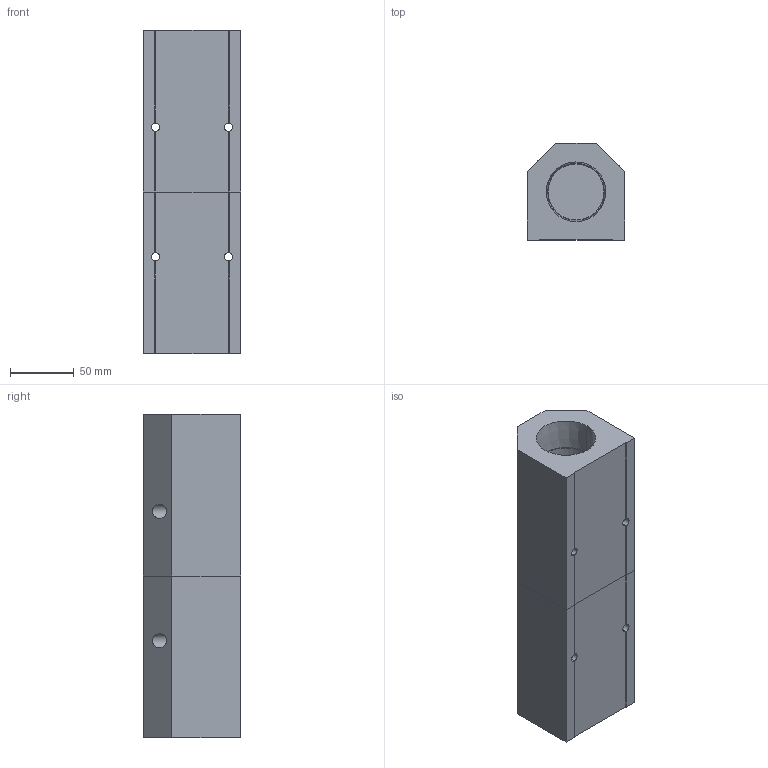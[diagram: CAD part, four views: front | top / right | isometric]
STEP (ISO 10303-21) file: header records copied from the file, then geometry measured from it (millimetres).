
FILE_DESCRIPTION (( 'STEP AP214' ), '1' );
FILE_NAME ('ALM4C-N6N24-254RB.step', '2022-02-07T09:16:00', ( '' ), ( '' ), 'SwSTEP 2.0', 'SolidWorks 2020', '' );
FILE_SCHEMA (( 'AUTOMOTIVE_DESIGN' ));
Length unit declared in the file: millimetre
Products named in the file (1): ALM4C-N6N24-254RB
Bounding box: 76.2 x 76.2 x 254 mm (x, y, z)
Volume: 928675.8 mm3; surface area: 134122.3 mm2
Topology: 2 solids, 2 shells, 327 faces, 856 edges, 568 vertices
Faces by surface type: plane 239, bspline 56, cylinder 20, cone 12
Entity records: 17064 total; most frequent: CARTESIAN_POINT 6320, ORIENTED_EDGE 1712, DIRECTION 1312, EDGE_CURVE 856, LINE 672, VECTOR 672, VERTEX_POINT 568, EDGE_LOOP 378
